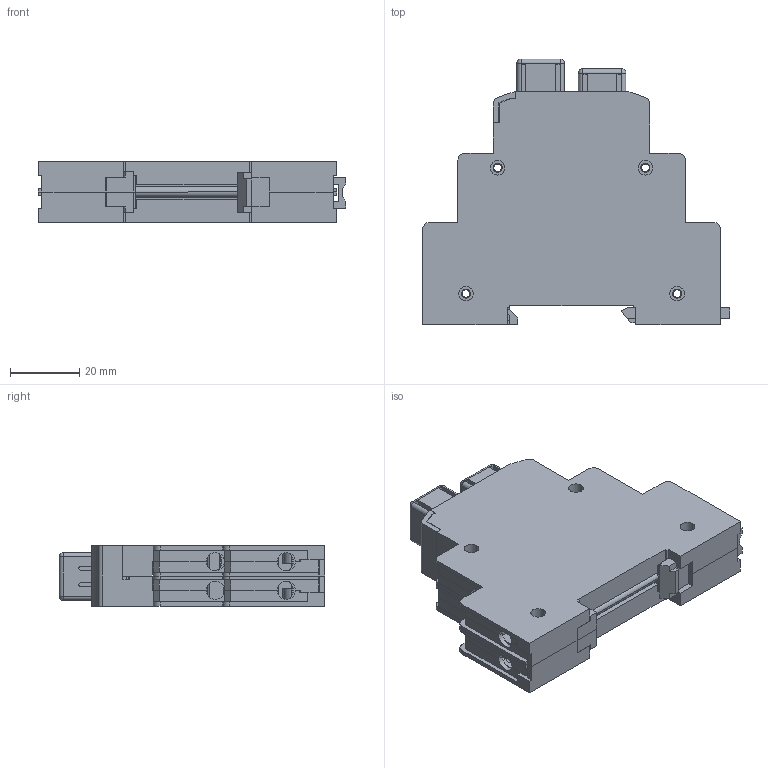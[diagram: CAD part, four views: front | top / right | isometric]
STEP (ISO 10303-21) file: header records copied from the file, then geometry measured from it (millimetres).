
FILE_DESCRIPTION (( 'STEP AP214' ), '1' );
FILE_NAME ('MST.step', '2011-08-08T07:05:01', ( 'Radek Veselý' ), ( 'Siemens and Partners' ), 'SwSTEP 2.0', 'SolidWorks 2006303', '' );
FILE_SCHEMA (( 'AUTOMOTIVE_DESIGN' ));
Length unit declared in the file: millimetre
Products named in the file (1): MST
Bounding box: 88.57 x 76.65 x 17.5 mm (x, y, z)
Volume: 35519.8 mm3; surface area: 52444.7 mm2
Topology: 22 solids, 22 shells, 2790 faces, 7594 edges, 4818 vertices
Faces by surface type: plane 1693, cylinder 803, bspline 144, cone 90, torus 52, sphere 8
Entity records: 120406 total; most frequent: CARTESIAN_POINT 19609, ORIENTED_EDGE 15044, DIRECTION 14080, EDGE_CURVE 7522, VECTOR 5154, LINE 5154, VERTEX_POINT 4818, AXIS2_PLACEMENT_3D 4463
